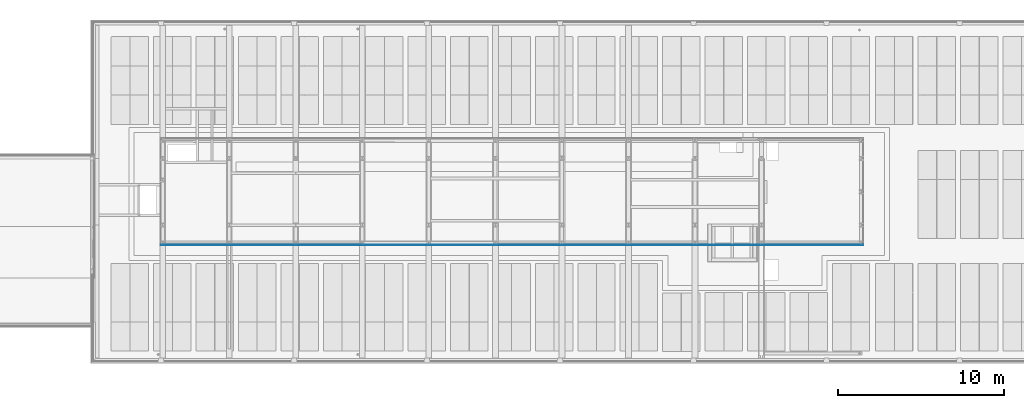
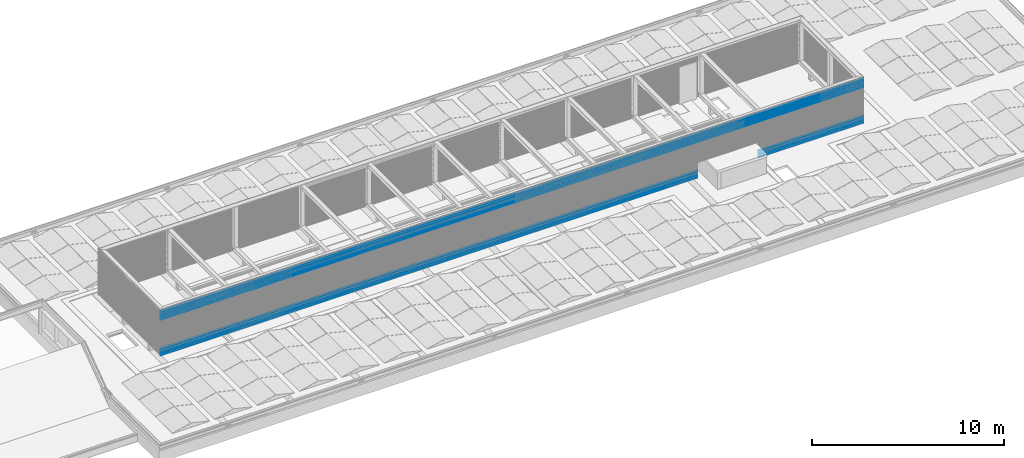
# One storey, part 33 of 63: 13 building element parts, 1 opening, 1 element without a shape of its own.
"""IFC2X3 building model written with IfcOpenShell, lengths in millimetres."""

from ifc_helpers import new_model, entity, si_unit, converted_unit, derived_unit, money_unit, direction, frame, origin_with_axes, place, context, subcontext, project, spatial, faceted_brep, material, type_object, element, aggregate, save


model = new_model("IFC2X3")

# Units and contexts
model_context = context("Model", 3, precision=0.01, world=origin_with_axes(), true_north=direction((0.0, 1.0)))
body_context = subcontext(model_context, "Body", "Model", "MODEL_VIEW")
ifc_project = project(units=[si_unit("LENGTHUNIT", "METRE", prefix="MILLI"), si_unit("AREAUNIT", "SQUARE_METRE"), si_unit("VOLUMEUNIT", "CUBIC_METRE"), converted_unit("PLANEANGLEUNIT", "DEGREE", entity("IfcPlaneAngleMeasure", 0.0174532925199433), si_unit("PLANEANGLEUNIT", "RADIAN"), dimensions=[0, 0, 0, 0, 0, 0, 0]), money_unit("EUR"), converted_unit("TIMEUNIT", "Year", entity("IfcTimeMeasure", 31557600.0), si_unit("TIMEUNIT", "SECOND"), dimensions=[0, 0, 1, 0, 0, 0, 0]), si_unit("MASSUNIT", "GRAM", prefix="KILO"), si_unit("THERMODYNAMICTEMPERATUREUNIT", "DEGREE_CELSIUS"), si_unit("LUMINOUSINTENSITYUNIT", "LUMEN"), si_unit("ENERGYUNIT", "JOULE", prefix="MEGA"), derived_unit("THERMALCONDUCTANCEUNIT", [(si_unit("POWERUNIT", "WATT"), 1), (si_unit("LENGTHUNIT", "METRE"), -1), (si_unit("THERMODYNAMICTEMPERATUREUNIT", "KELVIN"), -1)]), derived_unit("SPECIFICHEATCAPACITYUNIT", [(si_unit("ENERGYUNIT", "JOULE"), 1), (si_unit("MASSUNIT", "GRAM", prefix="KILO"), -1), (si_unit("THERMODYNAMICTEMPERATUREUNIT", "KELVIN"), -1)]), derived_unit("MASSDENSITYUNIT", [(si_unit("MASSUNIT", "GRAM", prefix="KILO"), 1), (si_unit("VOLUMEUNIT", "CUBIC_METRE"), -1)])], contexts=[model_context])

# Site, building, storey
site_placement = place(None, origin_with_axes())
site = spatial("IfcSite", under=ifc_project, at=site_placement, Name="<site naam>", CompositionType="ELEMENT")
building_placement = place(site_placement, origin_with_axes())
building = spatial("IfcBuilding", under=site, at=building_placement, Name="<Naam gebouw>", CompositionType="ELEMENT")
storey_placement = place(building_placement, frame((0.0, 0.0, 12770.0), z_axis=(0.0, 0.0, 1.0), x_axis=(1.0, 0.0, 0.0)))
storey = spatial("IfcBuildingStorey", under=building, at=storey_placement, Name="04 4e verdieping", CompositionType="ELEMENT", Elevation=12770.0)

# Wall, opening, building element parts
wall_type = type_object("IfcWallType", Name="Gevelbeplating golf 18 x 2900", PredefinedType="NOTDEFINED")
wall_placement = place(storey_placement, frame((15871.99992141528, 6781.999921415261, 299.9552842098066), z_axis=(0.0, 0.0, 1.0), x_axis=(1.0, 0.0, 0.0)))
wall = element("IfcWall", 1, at=wall_placement, inside=storey, type_object=wall_type, Name="47_Binnenwand_Gevelbeplating")
opening_placement = place(wall_placement, frame((-15871.99992141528, -6781.999921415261, -13069.95528420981), z_axis=(0.0, 0.0, 1.0), x_axis=(1.0, 0.0, 0.0)))
element("IfcOpeningElement", 2, at=opening_placement, cuts=wall, Name="47_Opening_", context=body_context, shape_type="Brep", body=[
    faceted_brep([(48150.00001112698, 6763.99976424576, 12770.0), (48150.00001112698, 6763.99976424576, 14059.65145375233), (48150.00001112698, 6818.000000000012, 14059.65145375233), (48150.00001112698, 6818.000000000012, 12770.0), (51850.00001112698, 6763.99976424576, 12770.0), (51850.00001112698, 6763.99976424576, 14059.65145375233), (51850.00001112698, 6818.000000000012, 14059.65145375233), (51850.00001112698, 6818.000000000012, 12770.0)], [[[0, 1, 2, 3]], [[0, 4, 5, 1]], [[1, 5, 6, 2]], [[3, 2, 6, 7]], [[4, 0, 3, 7]], [[5, 4, 7, 6]]]),
])
ifc_material = material(Name="gevelafwerking type 3 - Aluminium RAL1036")
building_element_part_1_placement = place(wall_placement, origin_with_axes())
building_element_part_1 = element("IfcBuildingElementPart", 3, at=building_element_part_1_placement, material=ifc_material, Name="gevelafwerking type 3 - Aluminium RAL1036", context=body_context, shape_type="Brep", body=[
    faceted_brep([(42239.00022979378, 16.99993332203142, 2279.999983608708), (16.99992737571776, 16.99993332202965, 2279.999983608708), (16.99992737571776, 17.99993570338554, 2279.999983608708), (42239.00022979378, 17.9999357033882, 2279.999983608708), (42241.22502892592, 14.77513279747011, 2290.365670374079), (14.77512824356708, 14.77513279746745, 2290.365670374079), (14.77512824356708, 15.69993986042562, 2290.365670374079), (14.54415085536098, 15.62919858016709, 2290.684488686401), (42241.45600631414, 15.62919858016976, 2290.684488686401), (42241.22502892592, 15.69993986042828, 2290.365670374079), (42247.44499411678, 8.555188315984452, 2298.951094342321), (8.55516305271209, 8.555188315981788, 2298.951094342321), (8.55516305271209, 9.398073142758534, 2298.951094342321), (8.209452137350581, 9.041519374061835, 2299.42412115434), (42247.79070503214, 9.0415193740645, 2299.42412115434), (42247.44499411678, 9.398073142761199, 2298.951094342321), (42253.7428684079, 2.257294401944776, 2307.568193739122), (2.25728876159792, 2.257294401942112, 2307.568193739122), (2.25728876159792, 3.340073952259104, 2307.568193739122), (2.188159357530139, 3.116414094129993, 2307.887674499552), (42253.81199781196, 3.116414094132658, 2307.887674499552), (42253.7428684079, 3.340073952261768, 2307.568193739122), (42256.00025512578, -6.429661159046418e-05, 2317.999997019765), (-9.795628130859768e-05, -6.429661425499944e-05, 2317.999997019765), (-9.795628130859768e-05, 0.9999357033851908, 2317.999997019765), (42256.00025512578, 0.9999357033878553, 2317.999997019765)], [[[0, 1, 2, 3]], [[4, 5, 1, 0]], [[5, 6, 2, 1]], [[2, 6, 7, 8, 9, 3]], [[0, 3, 9, 4]], [[10, 11, 5, 4]], [[12, 7, 6, 5, 11]], [[7, 12, 13, 14, 15, 8]], [[9, 8, 15, 10, 4]], [[16, 17, 11, 10]], [[18, 13, 12, 11, 17]], [[13, 18, 19, 20, 21, 14]], [[15, 14, 21, 16, 10]], [[22, 23, 17, 16]], [[24, 19, 18, 17, 23]], [[20, 19, 24, 25]], [[21, 20, 25, 22, 16]], [[25, 24, 23, 22]]]),
])
building_element_part_2_placement = place(wall_placement, origin_with_axes())
building_element_part_2 = element("IfcBuildingElementPart", 4, at=building_element_part_2_placement, material=ifc_material, Name="gevelafwerking type 3 - Aluminium RAL1036", context=body_context, shape_type="Brep", body=[
    faceted_brep([(42239.00022979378, 16.99993094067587, 2356.000010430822), (16.99992737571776, 16.9999309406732, 2356.000010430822), (16.99992737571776, 17.99993332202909, 2356.000010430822), (42239.00022979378, 17.99993332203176, 2356.000010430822), (42241.22502892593, 14.77513041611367, 2366.365697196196), (14.77512824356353, 14.775130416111, 2366.365697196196), (14.77512824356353, 15.69993152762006, 2366.365697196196), (14.54417028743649, 15.62919619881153, 2366.684488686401), (42241.45598688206, 15.62919619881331, 2366.684488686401), (42241.22502892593, 15.69993152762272, 2366.365697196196), (42247.44499411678, 8.555185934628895, 2374.951121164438), (8.55516305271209, 8.55518593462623, 2374.951121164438), (8.55516305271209, 9.398050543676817, 2374.951121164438), (8.209467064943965, 9.041516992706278, 2375.42412115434), (42247.79069010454, 9.041516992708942, 2375.42412115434), (42247.44499411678, 9.398050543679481, 2374.951121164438), (42253.74287308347, 2.257292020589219, 2383.568220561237), (2.257284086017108, 2.257292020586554, 2383.568220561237), (2.257284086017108, 3.340052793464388, 2383.568220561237), (2.188155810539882, 3.116411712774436, 2383.887674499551), (42253.81200135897, 3.116411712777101, 2383.887674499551), (42253.74287308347, 3.340052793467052, 2383.568220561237), (42256.00025512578, -6.667796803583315e-05, 2393.999980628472), (-9.795628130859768e-05, -6.66779707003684e-05, 2393.999980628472), (-9.795628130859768e-05, 0.9999333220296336, 2393.999980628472), (42256.00025512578, 0.9999333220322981, 2393.999980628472)], [[[0, 1, 2, 3]], [[4, 5, 1, 0]], [[5, 6, 2, 1]], [[2, 6, 7, 8, 9, 3]], [[0, 3, 9, 4]], [[10, 11, 5, 4]], [[12, 7, 6, 5, 11]], [[7, 12, 13, 14, 15, 8]], [[9, 8, 15, 10, 4]], [[16, 17, 11, 10]], [[18, 13, 12, 11, 17]], [[13, 18, 19, 20, 21, 14]], [[15, 14, 21, 16, 10]], [[22, 23, 17, 16]], [[24, 19, 18, 17, 23]], [[20, 19, 24, 25]], [[21, 20, 25, 22, 16]], [[25, 24, 23, 22]]]),
])
building_element_part_3_placement = place(wall_placement, origin_with_axes())
building_element_part_3 = element("IfcBuildingElementPart", 5, at=building_element_part_3_placement, material=ifc_material, Name="gevelafwerking type 3 - Aluminium RAL1036", context=body_context, shape_type="Brep", body=[
    faceted_brep([(42239.00027300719, 16.99992379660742, 2659.99998807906), (16.9998841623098, 16.99992379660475, 2659.99998807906), (16.9998841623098, 17.99992617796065, 2659.99998807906), (42239.00027300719, 17.99992617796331, 2659.99998807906), (42241.22507213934, 14.77512327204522, 2670.365674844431), (14.77508503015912, 14.77512327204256, 2670.365674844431), (14.77508503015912, 15.69992934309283, 2670.365674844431), (14.54411248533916, 15.62918905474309, 2670.6844886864), (42241.45604468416, 15.62918905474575, 2670.6844886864), (42241.22507213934, 15.6999293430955, 2670.365674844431), (42247.44499411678, 8.555178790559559, 2678.951098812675), (8.55516305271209, 8.555178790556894, 2678.951098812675), (8.55516305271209, 9.398060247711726, 2678.951098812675), (8.209455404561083, 9.04150984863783, 2679.424121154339), (42247.79070176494, 9.041509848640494, 2679.424121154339), (42247.44499411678, 9.39806024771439, 2678.951098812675), (42253.7428684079, 2.257284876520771, 2687.568198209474), (2.257288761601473, 2.257284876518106, 2687.568198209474), (2.257288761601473, 3.340061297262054, 2687.568198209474), (2.188160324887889, 3.116404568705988, 2687.887674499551), (42253.81199684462, 3.116404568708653, 2687.887674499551), (42253.7428684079, 3.340061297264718, 2687.568198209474), (42256.00025512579, -7.382203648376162e-05, 2698.000001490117), (-9.795628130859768e-05, -7.382203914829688e-05, 2698.000001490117), (-9.795628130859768e-05, 0.9999261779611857, 2698.000001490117), (42256.00025512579, 0.9999261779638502, 2698.000001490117)], [[[0, 1, 2, 3]], [[4, 5, 1, 0]], [[5, 6, 2, 1]], [[2, 6, 7, 8, 9, 3]], [[0, 3, 9, 4]], [[10, 11, 5, 4]], [[12, 7, 6, 5, 11]], [[7, 12, 13, 14, 15, 8]], [[9, 8, 15, 10, 4]], [[16, 17, 11, 10]], [[18, 13, 12, 11, 17]], [[13, 18, 19, 20, 21, 14]], [[15, 14, 21, 16, 10]], [[22, 23, 17, 16]], [[24, 19, 18, 17, 23]], [[20, 19, 24, 25]], [[21, 20, 25, 22, 16]], [[25, 24, 23, 22]]]),
])
building_element_part_4_placement = place(wall_placement, origin_with_axes())
building_element_part_4 = element("IfcBuildingElementPart", 6, at=building_element_part_4_placement, material=ifc_material, Name="gevelafwerking type 3 - Aluminium RAL1036", context=body_context, shape_type="Brep", body=[
    faceted_brep([(42239.00027300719, 16.99992379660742, 2584.000004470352), (16.9998841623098, 16.99992379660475, 2584.000004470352), (16.9998841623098, 17.99992617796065, 2584.000004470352), (42239.00027300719, 17.99992617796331, 2584.000004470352), (42241.22507213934, 14.77512327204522, 2594.365691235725), (14.77508503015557, 14.77512327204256, 2594.365691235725), (14.77508503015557, 15.69992570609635, 2594.365691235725), (14.54412436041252, 15.62918905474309, 2594.684488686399), (42241.45603280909, 15.62918905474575, 2594.684488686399), (42241.22507213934, 15.69992570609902, 2594.365691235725), (42247.44499411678, 8.555178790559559, 2602.951115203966), (8.55516305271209, 8.555178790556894, 2602.951115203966), (8.55516305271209, 9.398047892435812, 2602.951115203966), (8.20946738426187, 9.04150984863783, 2603.424121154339), (42247.79068978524, 9.041509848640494, 2603.424121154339), (42247.44499411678, 9.398047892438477, 2602.951115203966), (42253.7428684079, 2.257284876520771, 2611.568214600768), (2.25728876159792, 2.257284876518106, 2611.568214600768), (2.25728876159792, 3.340049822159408, 2611.568214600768), (2.188168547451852, 3.116404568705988, 2611.887674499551), (42253.81198862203, 3.116404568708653, 2611.887674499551), (42253.7428684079, 3.340049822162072, 2611.568214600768), (42256.0002504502, -7.382203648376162e-05, 2622.00001788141), (-9.328071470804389e-05, -7.382203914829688e-05, 2622.00001788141), (-9.328071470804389e-05, 0.9999261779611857, 2622.00001788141), (42256.0002504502, 0.9999261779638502, 2622.00001788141)], [[[0, 1, 2, 3]], [[4, 5, 1, 0]], [[5, 6, 2, 1]], [[2, 6, 7, 8, 9, 3]], [[0, 3, 9, 4]], [[10, 11, 5, 4]], [[12, 7, 6, 5, 11]], [[7, 12, 13, 14, 15, 8]], [[9, 8, 15, 10, 4]], [[16, 17, 11, 10]], [[18, 13, 12, 11, 17]], [[13, 18, 19, 20, 21, 14]], [[15, 14, 21, 16, 10]], [[22, 23, 17, 16]], [[24, 19, 18, 17, 23]], [[20, 19, 24, 25]], [[21, 20, 25, 22, 16]], [[25, 24, 23, 22]]]),
])
building_element_part_5_placement = place(wall_placement, origin_with_axes())
building_element_part_5 = element("IfcBuildingElementPart", 7, at=building_element_part_5_placement, material=ifc_material, Name="gevelafwerking type 3 - Aluminium RAL1036", context=body_context, shape_type="Brep", body=[
    faceted_brep([(42239.00022979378, 16.99992617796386, 2508.000020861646), (16.99992737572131, 16.9999261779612, 2508.000020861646), (16.99992737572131, 17.99992855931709, 2508.000020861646), (42239.00022979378, 17.99992855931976, 2508.000020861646), (42241.22506750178, 14.77512565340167, 2518.365664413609), (14.77508966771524, 14.775125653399, 2518.365664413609), (14.77508966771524, 15.69993403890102, 2518.365664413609), (14.54410492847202, 15.62919143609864, 2518.6844886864), (42241.45605224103, 15.62919143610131, 2518.6844886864), (42241.22506750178, 15.69993403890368, 2518.365664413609), (42247.44499411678, 8.555181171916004, 2526.951088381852), (8.55516305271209, 8.55518117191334, 2526.951088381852), (8.55516305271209, 9.39807049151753, 2526.951088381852), (8.20944483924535, 9.041512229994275, 2527.42412115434), (42247.79071233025, 9.041512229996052, 2527.42412115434), (42247.44499411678, 9.398070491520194, 2526.951088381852), (42253.74287308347, 2.257287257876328, 2535.568230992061), (2.257284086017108, 2.257287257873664, 2535.568230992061), (2.257284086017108, 3.340040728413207, 2535.568230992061), (2.188158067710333, 3.116406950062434, 2535.88767449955), (42253.81199910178, 3.116406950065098, 2535.88767449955), (42253.74287308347, 3.340040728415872, 2535.568230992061), (42256.00025512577, -7.144068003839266e-05, 2545.999991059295), (-9.795628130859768e-05, -7.144068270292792e-05, 2545.999991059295), (-9.795628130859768e-05, 0.9999285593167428, 2545.999991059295), (42256.00025512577, 0.9999285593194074, 2545.999991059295)], [[[0, 1, 2, 3]], [[4, 5, 1, 0]], [[5, 6, 2, 1]], [[2, 6, 7, 8, 9, 3]], [[0, 3, 9, 4]], [[10, 11, 5, 4]], [[12, 7, 6, 5, 11]], [[7, 12, 13, 14, 15, 8]], [[9, 8, 15, 10, 4]], [[16, 17, 11, 10]], [[18, 13, 12, 11, 17]], [[13, 18, 19, 20, 21, 14]], [[15, 14, 21, 16, 10]], [[22, 23, 17, 16]], [[24, 19, 18, 17, 23]], [[20, 19, 24, 25]], [[21, 20, 25, 22, 16]], [[25, 24, 23, 22]]]),
])
building_element_part_6_placement = place(wall_placement, origin_with_axes())
building_element_part_6 = element("IfcBuildingElementPart", 8, at=building_element_part_6_placement, material=ifc_material, Name="gevelafwerking type 3 - Aluminium RAL1036", context=body_context, shape_type="Brep", body=[
    faceted_brep([(42239.00027300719, 16.99992141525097, 2736.000014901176), (16.9998841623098, 16.99992141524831, 2736.000014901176), (16.9998841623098, 17.99992379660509, 2736.000014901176), (42239.00027300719, 17.99992379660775, 2736.000014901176), (42241.22507213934, 14.77512089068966, 2746.365701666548), (14.77508503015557, 14.775120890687, 2746.365701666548), (14.77508503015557, 15.69992101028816, 2746.365701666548), (14.54413191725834, 15.62918667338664, 2746.6844886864), (42241.45602525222, 15.62918667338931, 2746.6844886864), (42241.22507213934, 15.69992101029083, 2746.365701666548), (42247.44499411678, 8.55517640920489, 2754.95112563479), (8.555163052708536, 8.555176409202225, 2754.95112563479), (8.555163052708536, 9.398037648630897, 2754.95112563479), (8.209470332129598, 9.041507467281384, 2755.424121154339), (42247.79068683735, 9.041507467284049, 2755.424121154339), (42247.44499411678, 9.398037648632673, 2754.95112563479), (42253.74287308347, 2.257282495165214, 2763.568225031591), (2.257284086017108, 2.257282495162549, 2763.568225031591), (2.257284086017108, 3.340040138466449, 2763.568225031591), (2.188156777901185, 3.116402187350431, 2763.887674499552), (42253.8120003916, 3.116402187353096, 2763.887674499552), (42253.74287308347, 3.340040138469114, 2763.568225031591), (42256.00025512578, -7.620339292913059e-05, 2773.999985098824), (-9.795628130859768e-05, -7.620339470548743e-05, 2773.999985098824), (-9.795628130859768e-05, 0.9999237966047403, 2773.999985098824), (42256.00025512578, 0.9999237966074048, 2773.999985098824)], [[[0, 1, 2, 3]], [[4, 5, 1, 0]], [[5, 6, 2, 1]], [[2, 6, 7, 8, 9, 3]], [[0, 3, 9, 4]], [[10, 11, 5, 4]], [[12, 7, 6, 5, 11]], [[7, 12, 13, 14, 15, 8]], [[9, 8, 15, 10, 4]], [[16, 17, 11, 10]], [[18, 13, 12, 11, 17]], [[13, 18, 19, 20, 21, 14]], [[15, 14, 21, 16, 10]], [[22, 23, 17, 16]], [[24, 19, 18, 17, 23]], [[20, 19, 24, 25]], [[21, 20, 25, 22, 16]], [[25, 24, 23, 22]]]),
])
building_element_part_7_placement = place(wall_placement, origin_with_axes())
building_element_part_7 = element("IfcBuildingElementPart", 9, at=building_element_part_7_placement, material=ifc_material, Name="gevelafwerking type 3 - Aluminium RAL1036", context=body_context, shape_type="Brep", body=[
    faceted_brep([(42239.00022979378, 16.99992855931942, 2431.999994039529), (16.99992737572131, 16.99992855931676, 2431.999994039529), (16.99992737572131, 17.99993094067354, 2431.999994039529), (42239.00022979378, 17.99993094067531, 2431.999994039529), (42241.22502892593, 14.77512803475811, 2442.365680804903), (14.77512824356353, 14.77512803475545, 2442.365680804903), (14.77512824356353, 15.69993278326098, 2442.365680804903), (14.54415841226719, 15.62919381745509, 2442.6844886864), (42241.45599875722, 15.62919381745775, 2442.6844886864), (42241.22502892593, 15.69993278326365, 2442.365680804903), (42247.44499411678, 8.55518355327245, 2450.951104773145), (8.55516305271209, 8.555183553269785, 2450.951104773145), (8.55516305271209, 9.398060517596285, 2450.951104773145), (8.209459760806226, 9.041514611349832, 2451.424121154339), (42247.79069740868, 9.041514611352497, 2451.424121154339), (42247.44499411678, 9.39806051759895, 2450.951104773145), (42253.7428684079, 2.257289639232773, 2459.568204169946), (2.25728876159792, 2.257289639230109, 2459.568204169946), (2.25728876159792, 3.340061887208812, 2459.568204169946), (2.188161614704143, 3.116409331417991, 2459.887674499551), (42253.81199555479, 3.116409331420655, 2459.887674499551), (42253.7428684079, 3.340061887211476, 2459.568204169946), (42256.00025512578, -6.905932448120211e-05, 2470.000007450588), (-9.795628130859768e-05, -6.905932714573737e-05, 2470.000007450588), (-9.795628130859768e-05, 0.9999309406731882, 2470.000007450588), (42256.00025512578, 0.9999309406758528, 2470.000007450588)], [[[0, 1, 2, 3]], [[4, 5, 1, 0]], [[5, 6, 2, 1]], [[2, 6, 7, 8, 9, 3]], [[0, 3, 9, 4]], [[10, 11, 5, 4]], [[12, 7, 6, 5, 11]], [[7, 12, 13, 14, 15, 8]], [[9, 8, 15, 10, 4]], [[16, 17, 11, 10]], [[18, 13, 12, 11, 17]], [[13, 18, 19, 20, 21, 14]], [[15, 14, 21, 16, 10]], [[22, 23, 17, 16]], [[24, 19, 18, 17, 23]], [[20, 19, 24, 25]], [[21, 20, 25, 22, 16]], [[25, 24, 23, 22]]]),
])
building_element_part_8_placement = place(wall_placement, origin_with_axes())
building_element_part_8 = element("IfcBuildingElementPart", 10, at=building_element_part_8_placement, material=ifc_material, Name="gevelafwerking type 3 - Aluminium RAL1036", context=body_context, shape_type="Brep", body=[
    faceted_brep([(42239.00027300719, 16.99991903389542, 2811.999998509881), (16.9998841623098, 16.99991903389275, 2811.999998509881), (16.9998841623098, 17.99992141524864, 2811.999998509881), (42239.00027300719, 17.99992141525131, 2811.999998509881), (42241.22507213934, 14.77511850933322, 2822.365685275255), (14.77508503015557, 14.77511850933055, 2822.365685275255), (14.77508503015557, 15.6999222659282, 2822.365685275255), (14.54412004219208, 15.6291842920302, 2822.684488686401), (42241.4560371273, 15.62918429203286, 2822.684488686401), (42241.22507213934, 15.69992226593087, 2822.365685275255), (42247.44499411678, 8.555174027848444, 2830.951109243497), (8.55516305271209, 8.55517402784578, 2830.951109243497), (8.55516305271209, 9.398047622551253, 2830.951109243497), (8.209455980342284, 9.041505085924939, 2831.42412115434), (42247.79070118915, 9.041505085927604, 2831.42412115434), (42247.44499411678, 9.398047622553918, 2830.951109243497), (42253.74291629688, 2.257280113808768, 2839.568208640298), (2.257240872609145, 2.257280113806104, 2839.568208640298), (2.257240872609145, 3.340049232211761, 2839.568208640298), (2.188111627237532, 3.116399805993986, 2839.88767449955), (42253.81204554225, 3.11639980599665, 2839.88767449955), (42253.74291629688, 3.340049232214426, 2839.568208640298), (42256.00025512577, -7.858474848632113e-05, 2850.00001192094), (-9.795628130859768e-05, -7.858475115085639e-05, 2850.00001192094), (-9.795628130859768e-05, 0.9999214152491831, 2850.00001192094), (42256.00025512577, 0.9999214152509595, 2850.00001192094)], [[[0, 1, 2, 3]], [[4, 5, 1, 0]], [[5, 6, 2, 1]], [[2, 6, 7, 8, 9, 3]], [[0, 3, 9, 4]], [[10, 11, 5, 4]], [[12, 7, 6, 5, 11]], [[7, 12, 13, 14, 15, 8]], [[9, 8, 15, 10, 4]], [[16, 17, 11, 10]], [[18, 13, 12, 11, 17]], [[13, 18, 19, 20, 21, 14]], [[15, 14, 21, 16, 10]], [[22, 23, 17, 16]], [[24, 19, 18, 17, 23]], [[20, 19, 24, 25]], [[21, 20, 25, 22, 16]], [[25, 24, 23, 22]]]),
])
building_element_part_9_placement = place(wall_placement, origin_with_axes())
building_element_part_9 = element("IfcBuildingElementPart", 11, at=building_element_part_9_placement, material=ifc_material, Name="gevelafwerking type 3 - Aluminium RAL1036", context=body_context, shape_type="Brep", body=[
    faceted_brep([(14.54421942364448, 15.62926287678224, 65.31551131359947), (14.77517145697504, 15.69999688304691, 65.634296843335), (16.99997058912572, 17.99999999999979, 75.99998360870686), (42239.00018658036, 18.00000000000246, 75.99998360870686), (42241.22498571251, 15.69999688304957, 65.634296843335), (42241.45593774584, 15.6292628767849, 65.31551131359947), (8.555249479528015, 9.398112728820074, 57.04887287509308), (8.555249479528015, 8.555252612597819, 57.04887287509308), (14.77517145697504, 14.77519709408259, 65.634296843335), (16.99997058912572, 16.9999976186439, 75.99998360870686), (42239.00018658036, 16.99999761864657, 75.99998360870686), (42241.22498571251, 14.77519709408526, 65.634296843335), (42247.44490768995, 9.398112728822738, 57.04887287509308), (42247.44490768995, 8.555252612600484, 57.04887287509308), (42247.79060169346, 9.041583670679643, 56.57587884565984), (8.20955547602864, 9.041583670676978, 56.57587884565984), (2.257327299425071, 3.340115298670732, 48.43177347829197), (2.257327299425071, 2.257358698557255, 48.43177347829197), (42253.74282987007, 3.340115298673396, 48.43177347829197), (42253.74282987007, 2.257358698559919, 48.43177347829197), (42253.81195553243, 3.116478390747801, 48.11232550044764), (2.188201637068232, 3.116478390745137, 48.11232550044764), (-1.152946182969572e-05, 1.000000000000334, 38.00001341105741), (-1.152946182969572e-05, 0.0, 38.00001341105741), (42256.00016869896, 1.000000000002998, 38.00001341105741), (42256.00016869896, 0.0, 38.00001341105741)], [[[0, 1, 2, 3, 4, 5]], [[1, 0, 6, 7, 8]], [[2, 1, 8, 9]], [[2, 9, 10, 3]], [[4, 3, 10, 11]], [[12, 5, 4, 11, 13]], [[6, 0, 5, 12, 14, 15]], [[6, 15, 16, 17, 7]], [[8, 7, 13, 11]], [[9, 8, 11, 10]], [[18, 14, 12, 13, 19]], [[16, 15, 14, 18, 20, 21]], [[16, 21, 22, 23, 17]], [[7, 17, 19, 13]], [[24, 20, 18, 19, 25]], [[22, 21, 20, 24]], [[23, 22, 24, 25]], [[17, 23, 25, 19]]]),
])
building_element_part_10_placement = place(wall_placement, origin_with_axes())
building_element_part_10 = element("IfcBuildingElementPart", 12, at=building_element_part_10_placement, material=ifc_material, Name="gevelafwerking type 3 - Aluminium RAL1036", context=body_context, shape_type="Brep", body=[
    faceted_brep([(14.54419999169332, 15.62926049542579, 141.3155113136), (14.77517145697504, 15.70000045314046, 141.6343236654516), (16.99997058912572, 17.99999761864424, 152.0000104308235), (42239.00018658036, 17.9999976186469, 152.0000104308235), (42241.22498571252, 15.70000045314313, 141.6343236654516), (42241.45595717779, 15.62926049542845, 141.3155113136), (8.555249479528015, 9.3981305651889, 133.0488996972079), (8.555249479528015, 8.555250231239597, 133.0488996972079), (14.77517145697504, 14.77519471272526, 141.6343236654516), (16.99997058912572, 16.99999523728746, 152.0000104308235), (42239.00018658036, 16.99999523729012, 152.0000104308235), (42241.22498571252, 14.77519471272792, 141.6343236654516), (42247.44490768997, 9.398130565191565, 133.0488996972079), (42247.44490768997, 8.555250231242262, 133.0488996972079), (42247.79061662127, 9.041581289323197, 132.5758788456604), (8.209540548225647, 9.041581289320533, 132.5758788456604), (2.25733197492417, 3.340131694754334, 124.4318003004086), (2.25733197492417, 2.257356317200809, 124.4318003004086), (42253.74282519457, 3.340131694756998, 124.4318003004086), (42253.74282519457, 2.257356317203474, 124.4318003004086), (42253.811956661, 3.116476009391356, 124.1123255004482), (2.18820518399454, 3.116476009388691, 124.1123255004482), (-1.152946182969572e-05, 0.9999976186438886, 113.9999970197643), (-1.152946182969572e-05, -2.381356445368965e-06, 113.9999970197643), (42256.00016869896, 0.9999976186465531, 113.9999970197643), (42256.00016869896, -2.381353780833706e-06, 113.9999970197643)], [[[0, 1, 2, 3, 4, 5]], [[1, 0, 6, 7, 8]], [[2, 1, 8, 9]], [[2, 9, 10, 3]], [[4, 3, 10, 11]], [[12, 5, 4, 11, 13]], [[6, 0, 5, 12, 14, 15]], [[6, 15, 16, 17, 7]], [[8, 7, 13, 11]], [[9, 8, 11, 10]], [[18, 14, 12, 13, 19]], [[16, 15, 14, 18, 20, 21]], [[16, 21, 22, 23, 17]], [[7, 17, 19, 13]], [[24, 20, 18, 19, 25]], [[22, 21, 20, 24]], [[23, 22, 24, 25]], [[17, 23, 25, 19]]]),
])
building_element_part_11_placement = place(wall_placement, origin_with_axes())
building_element_part_11 = element("IfcBuildingElementPart", 13, at=building_element_part_11_placement, material=ifc_material, Name="gevelafwerking type 3 - Aluminium RAL1036", context=body_context, shape_type="Brep", body=[
    faceted_brep([(14.54421186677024, 15.62925811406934, 217.3155113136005), (14.77517145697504, 15.69999443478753, 217.6343072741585), (16.99997058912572, 17.99999523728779, 227.9999940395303), (42239.00018658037, 17.99999523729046, 227.9999940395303), (42241.22498571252, 15.6999944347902, 217.6343072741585), (42241.45594530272, 15.62925811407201, 217.3155113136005), (8.555249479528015, 9.398115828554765, 209.0488833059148), (8.555249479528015, 8.55524784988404, 209.0488833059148), (14.77517145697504, 14.7751923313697, 217.6343072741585), (16.99997058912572, 16.9999928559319, 227.9999940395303), (42239.00018658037, 16.99999285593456, 227.9999940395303), (42241.22498571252, 14.77519233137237, 217.6343072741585), (42247.44490768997, 9.39811582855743, 209.0488833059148), (42247.44490768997, 8.555247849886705, 209.0488833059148), (42247.79060464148, 9.04157890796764, 208.5758788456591), (8.209552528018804, 9.041578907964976, 208.5758788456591), (2.257331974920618, 3.340117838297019, 200.4317839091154), (2.257331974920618, 2.257353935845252, 200.4317839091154), (42253.74282519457, 3.340117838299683, 200.4317839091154), (42253.74282519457, 2.257353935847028, 200.4317839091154), (42253.81195311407, 3.116473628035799, 200.1123255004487), (2.18821340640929, 3.116473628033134, 200.1123255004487), (-6.853987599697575e-06, 0.9999952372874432, 189.9999806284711), (-6.853987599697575e-06, -4.76271200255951e-06, 189.9999806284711), (42256.00016402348, 0.9999952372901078, 189.9999806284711), (42256.00016402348, -4.762709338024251e-06, 189.9999806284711)], [[[0, 1, 2, 3, 4, 5]], [[1, 0, 6, 7, 8]], [[2, 1, 8, 9]], [[2, 9, 10, 3]], [[4, 3, 10, 11]], [[12, 5, 4, 11, 13]], [[6, 0, 5, 12, 14, 15]], [[6, 15, 16, 17, 7]], [[8, 7, 13, 11]], [[9, 8, 11, 10]], [[18, 14, 12, 13, 19]], [[16, 15, 14, 18, 20, 21]], [[16, 21, 22, 23, 17]], [[7, 17, 19, 13]], [[24, 20, 18, 19, 25]], [[22, 21, 20, 24]], [[23, 22, 24, 25]], [[17, 23, 25, 19]]]),
])
building_element_part_12_placement = place(wall_placement, origin_with_axes())
building_element_part_12 = element("IfcBuildingElementPart", 14, at=building_element_part_12_placement, material=ifc_material, Name="gevelafwerking type 3 - Aluminium RAL1036", context=body_context, shape_type="Brep", body=[
    faceted_brep([(14.54421458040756, 15.62925335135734, 445.3155113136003), (14.77517145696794, 15.69998834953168, 445.634301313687), (16.99997058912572, 17.99999047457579, 455.9999880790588), (42239.00018658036, 17.99999047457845, 455.9999880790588), (42241.22498571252, 15.69998834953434, 445.634301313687), (42241.4559425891, 15.62925335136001, 445.3155113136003), (8.555206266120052, 9.398106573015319, 437.0488773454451), (8.555206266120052, 8.555243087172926, 437.0488773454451), (14.77517145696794, 14.7751875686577, 445.634301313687), (16.99997058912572, 16.9999880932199, 455.9999880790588), (42239.00018658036, 16.99998809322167, 455.9999880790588), (42241.22498571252, 14.77518756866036, 445.634301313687), (42247.44495090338, 9.398106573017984, 437.0488773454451), (42247.44495090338, 8.55524308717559, 437.0488773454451), (42247.79064580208, 9.04157414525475, 436.5758788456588), (8.20951136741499, 9.041574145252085, 436.5758788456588), (2.257327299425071, 3.340108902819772, 428.431777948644), (2.257327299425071, 2.25734917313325, 428.431777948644), (42253.74282987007, 3.340108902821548, 428.431777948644), (42253.74282987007, 2.257349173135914, 428.431777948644), (42253.81195649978, 3.116468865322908, 428.1123255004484), (2.188200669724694, 3.116468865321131, 428.1123255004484), (-1.152946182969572e-05, 0.9999904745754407, 418.0000178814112), (-1.152946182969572e-05, -9.525424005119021e-06, 418.0000178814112), (42256.00016869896, 0.9999904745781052, 418.0000178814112), (42256.00016869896, -9.525421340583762e-06, 418.0000178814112)], [[[0, 1, 2, 3, 4, 5]], [[1, 0, 6, 7, 8]], [[2, 1, 8, 9]], [[2, 9, 10, 3]], [[4, 3, 10, 11]], [[12, 5, 4, 11, 13]], [[6, 0, 5, 12, 14, 15]], [[6, 15, 16, 17, 7]], [[8, 7, 13, 11]], [[9, 8, 11, 10]], [[18, 14, 12, 13, 19]], [[16, 15, 14, 18, 20, 21]], [[16, 21, 22, 23, 17]], [[7, 17, 19, 13]], [[24, 20, 18, 19, 25]], [[22, 21, 20, 24]], [[23, 22, 24, 25]], [[17, 23, 25, 19]]]),
])
building_element_part_13_placement = place(wall_placement, origin_with_axes())
building_element_part_13 = element("IfcBuildingElementPart", 15, at=building_element_part_13_placement, material=ifc_material, Name="gevelafwerking type 3 - Aluminium RAL1036", context=body_context, shape_type="Brep", body=[
    faceted_brep([(14.54419083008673, 15.62925573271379, 293.3155113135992), (14.77517145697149, 15.69999800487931, 293.6343340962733), (16.99997058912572, 17.99999285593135, 304.0000208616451), (42239.00018658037, 17.99999285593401, 304.0000208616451), (42241.22498571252, 15.69999800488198, 293.6343340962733), (42241.45596633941, 15.62925573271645, 293.3155113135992), (8.555206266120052, 9.398133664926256, 285.0489101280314), (8.555206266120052, 8.555245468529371, 285.0489101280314), (14.77517145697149, 14.77518995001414, 293.6343340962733), (16.99997058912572, 16.99999047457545, 304.0000208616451), (42239.00018658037, 16.99999047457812, 304.0000208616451), (42241.22498571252, 14.77518995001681, 293.6343340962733), (42247.44495090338, 9.39813366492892, 285.0489101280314), (42247.44495090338, 8.555245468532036, 285.0489101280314), (42247.79066508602, 9.041576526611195, 284.5758788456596), (8.209492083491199, 9.04157652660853, 284.5758788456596), (2.25733197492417, 3.340134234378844, 276.4318107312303), (2.25733197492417, 2.257351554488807, 276.4318107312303), (42253.74282519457, 3.340134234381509, 276.4318107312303), (42253.74282519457, 2.257351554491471, 276.4318107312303), (42253.81195891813, 3.116471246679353, 276.1123255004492), (2.188202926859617, 3.116471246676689, 276.1123255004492), (-1.152946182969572e-05, 0.999992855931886, 266.0000074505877), (-1.152946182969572e-05, -7.144068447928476e-06, 266.0000074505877), (42256.00016869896, 0.9999928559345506, 266.0000074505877), (42256.00016869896, -7.144065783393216e-06, 266.0000074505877)], [[[0, 1, 2, 3, 4, 5]], [[1, 0, 6, 7, 8]], [[2, 1, 8, 9]], [[2, 9, 10, 3]], [[4, 3, 10, 11]], [[12, 5, 4, 11, 13]], [[6, 0, 5, 12, 14, 15]], [[6, 15, 16, 17, 7]], [[8, 7, 13, 11]], [[9, 8, 11, 10]], [[18, 14, 12, 13, 19]], [[16, 15, 14, 18, 20, 21]], [[16, 21, 22, 23, 17]], [[7, 17, 19, 13]], [[24, 20, 18, 19, 25]], [[22, 21, 20, 24]], [[23, 22, 24, 25]], [[17, 23, 25, 19]]]),
])
aggregate(wall, [building_element_part_1, building_element_part_2, building_element_part_3, building_element_part_4, building_element_part_5, building_element_part_6, building_element_part_7, building_element_part_8, building_element_part_9, building_element_part_10, building_element_part_11, building_element_part_12, building_element_part_13])

save(model, "model.ifc")
